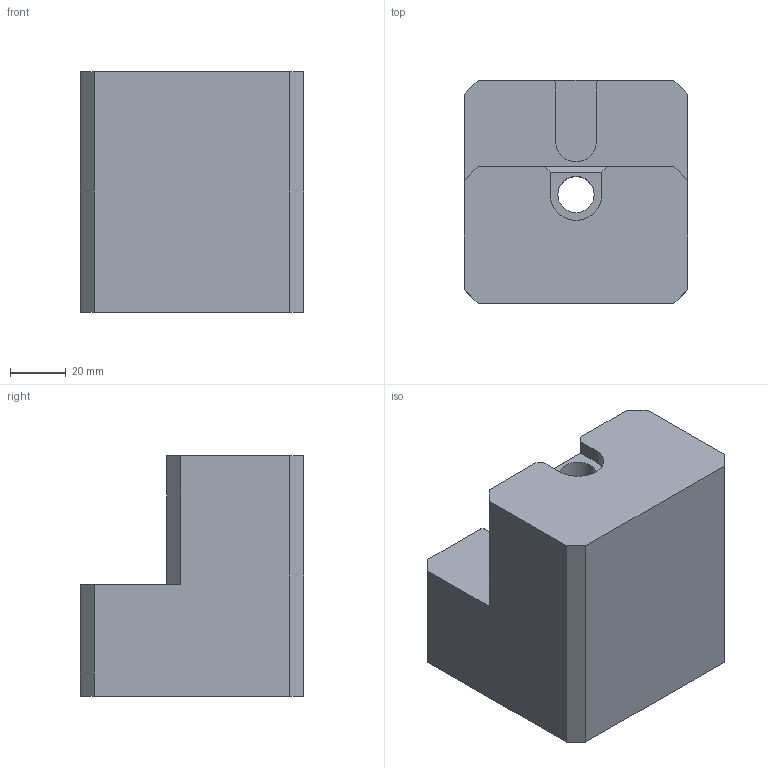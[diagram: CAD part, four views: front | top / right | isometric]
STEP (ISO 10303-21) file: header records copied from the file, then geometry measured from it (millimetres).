
FILE_DESCRIPTION(('CATIA V5 STEP Exchange'),'2;1');
FILE_NAME('C:\Users\hh\Desktop\补偿气缸扩孔\LS240501_V2.stp','2024-05-10T06:42:50+00:00',('none'),('none'),'CATIA Version 5 Release 21 GA (IN-10)','CATIA V5 STEP AP214','none');
FILE_SCHEMA(('AUTOMOTIVE_DESIGN { 1 0 10303 214 1 1 1 1 }'));
Length unit declared in the file: millimetre
Products named in the file (1): Part18
Bounding box: 80 x 80 x 86 mm (x, y, z)
Volume: 411558 mm3; surface area: 40543.9 mm2
Topology: 1 solids, 1 shells, 29 faces, 79 edges, 52 vertices
Faces by surface type: plane 25, cylinder 4
Entity records: 916 total; most frequent: CARTESIAN_POINT 162, ORIENTED_EDGE 158, DIRECTION 133, EDGE_CURVE 79, VECTOR 69, LINE 69, VERTEX_POINT 52, AXIS2_PLACEMENT_3D 37
